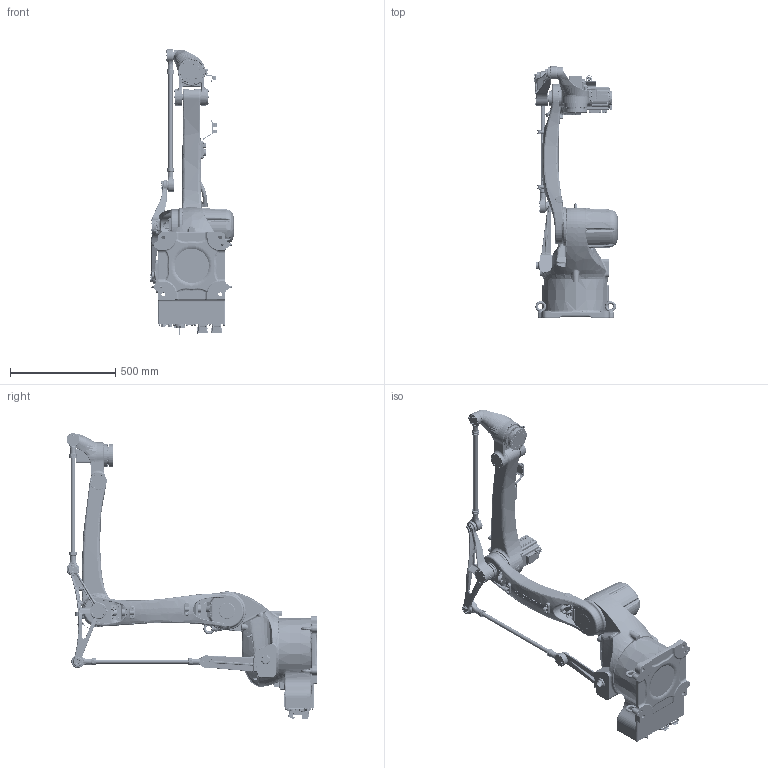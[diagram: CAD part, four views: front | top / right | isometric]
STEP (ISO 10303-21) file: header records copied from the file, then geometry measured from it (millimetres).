
FILE_DESCRIPTION (( 'STEP AP203' ), '1' );
FILE_NAME ('CRP-RP15-15.STEP', '2022-04-12T08:24:12', ( '' ), ( '' ), 'SwSTEP 2.0', 'SolidWorks 2016', '' );
FILE_SCHEMA (( 'CONFIG_CONTROL_DESIGN' ));
Products named in the file (11): CR15A0200 J2-00; RP150202湮旋嶺裝盓釱 2022.03.13; RP150800苤旋嶺裝郪璃-15; RP150400三角臂组件; RP150600勂窒郪璃; RP150700 湮旋嶺裝郪璃-15; CR15A0100 J1-00; CRP-RP15-15; PR150402三角臂轴; RP150500苤旋郪璃; RP150300 J3-00
Assembly tree (10 placements, depth 2):
  CRP-RP15-15
    CR15A0100 J1-00
    CR15A0200 J2-00
    RP150300 J3-00
    RP150500苤旋郪璃
    PR150402三角臂轴
    RP150202湮旋嶺裝盓釱 2022.03.13
    RP150400三角臂组件
    RP150600勂窒郪璃
    RP150700 湮旋嶺裝郪璃-15
    RP150800苤旋嶺裝郪璃-15
Bounding box: 395 x 1189.49 x 1353.19 mm (x, y, z)
Volume: 24626885.3 mm3; surface area: 2981022.3 mm2
Topology: 4 solids, 345 shells, 13824 faces, 36729 edges, 23409 vertices
Faces by surface type: plane 5386, cylinder 3804, bspline 3193, cone 843, torus 526, sphere 72
Entity records: 903062 total; most frequent: CARTESIAN_POINT 585583, ORIENTED_EDGE 68698, DIRECTION 59097, EDGE_CURVE 36245, VERTEX_POINT 23380, AXIS2_PLACEMENT_3D 21369, LINE 16359, VECTOR 16359
